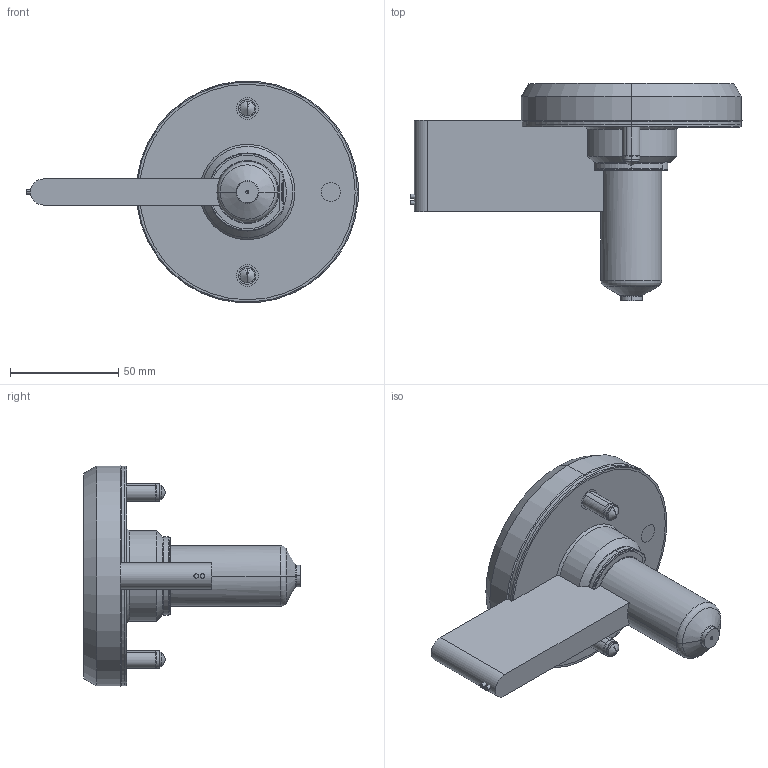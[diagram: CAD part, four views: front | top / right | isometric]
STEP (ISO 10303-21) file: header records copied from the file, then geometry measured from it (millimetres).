
FILE_DESCRIPTION (( 'STEP AP214' ), '1' );
FILE_NAME ('SOHSB6060-SOFBOP06.STEP', '2024-11-29T06:26:17', ( '' ), ( '' ), 'SwSTEP 2.0', 'SolidWorks 2022', '' );
FILE_SCHEMA (( 'AUTOMOTIVE_DESIGN' ));
Length unit declared in the file: millimetre
Products named in the file (11): SOHSB6060-SOFBOP06; hexagon socket head cap screws gb_GB_FASTENER_SCREWS_HSHCS M8X25-C; EcoONE-HSB06-06004_SONH18055; EcoONE-HSB06-06003(A)_SOHSBNB6060; EcoONE-HSB06-Open Gate Full Body Standad Tip Assembly_SOFBOP06; EcoONE-HSB06-Point Gate Needle Tip-Standard_SOPGN0601; EcoONE-HSB06-06005_SOTC10200-J; EcoONE-HSB06-00002(A)_SOHSBLR06; EcoONE-HSB06-Open Gate Full Body Retainer Tip_SOFRT0601; EcoONE-HSB06-Open Gate Cut-out Details_Sprue Gate or Full Body Gate; EcoONE-HSB06-06006(A)_SONHC06
Assembly tree (12 placements, depth 3):
  SOHSB6060-SOFBOP06
    EcoONE-HSB06-06003(A)_SOHSBNB6060
    EcoONE-HSB06-06004_SONH18055
    EcoONE-HSB06-06005_SOTC10200-J
    EcoONE-HSB06-06006(A)_SONHC06  x2
    EcoONE-HSB06-00002(A)_SOHSBLR06
    hexagon socket head cap screws gb_GB_FASTENER_SCREWS_HSHCS M8X25-C  x2
    EcoONE-HSB06-Open Gate Full Body Standad Tip Assembly_SOFBOP06
      EcoONE-HSB06-Open Gate Full Body Retainer Tip_SOFRT0601
      EcoONE-HSB06-Point Gate Needle Tip-Standard_SOPGN0601
    EcoONE-HSB06-Open Gate Cut-out Details_Sprue Gate or Full Body Gate
Bounding box: 153.01 x 100 x 102.14 mm (x, y, z)
Volume: 284960.7 mm3; surface area: 82504.1 mm2
Topology: 11 solids, 11 shells, 498 faces, 1258 edges, 794 vertices
Faces by surface type: cylinder 154, plane 127, bspline 110, cone 77, torus 22, sphere 8
Entity records: 30187 total; most frequent: CARTESIAN_POINT 19155, ORIENTED_EDGE 2296, DIRECTION 1855, EDGE_CURVE 1148, AXIS2_PLACEMENT_3D 750, VERTEX_POINT 731, EDGE_LOOP 497, FACE_OUTER_BOUND 457
